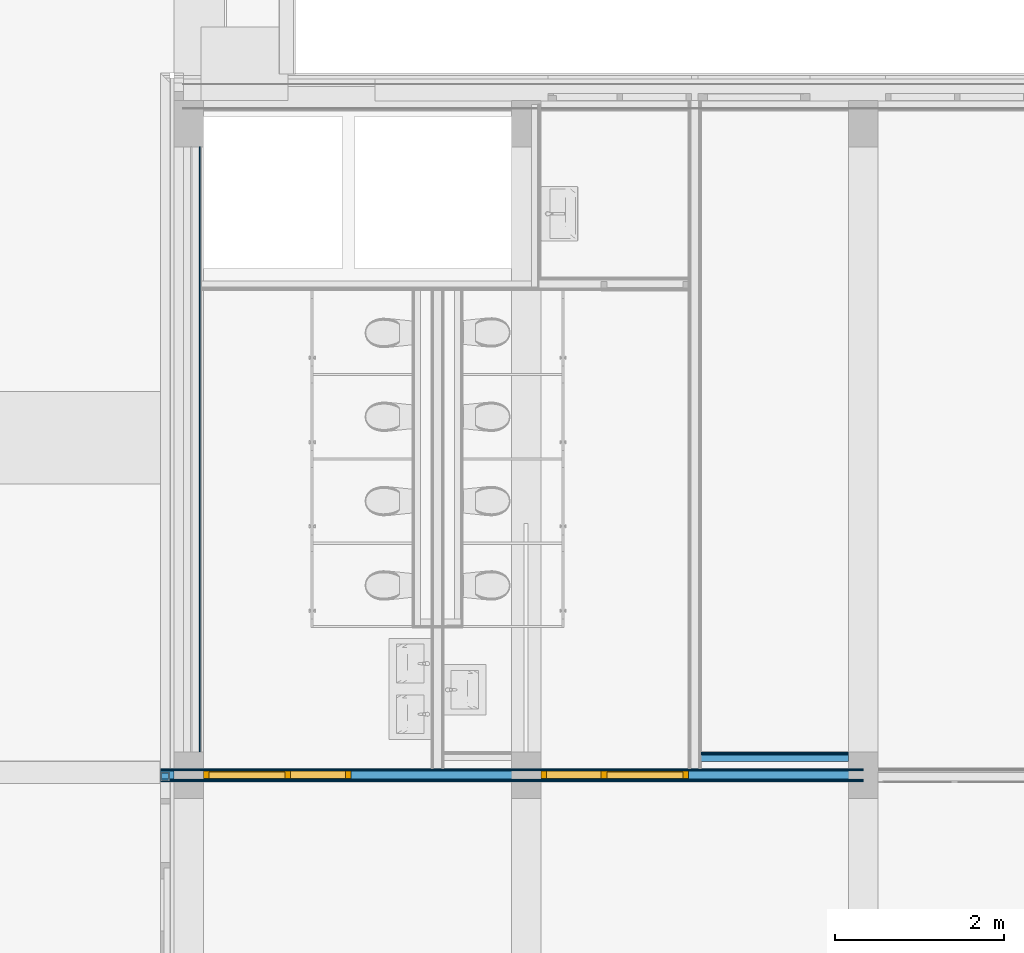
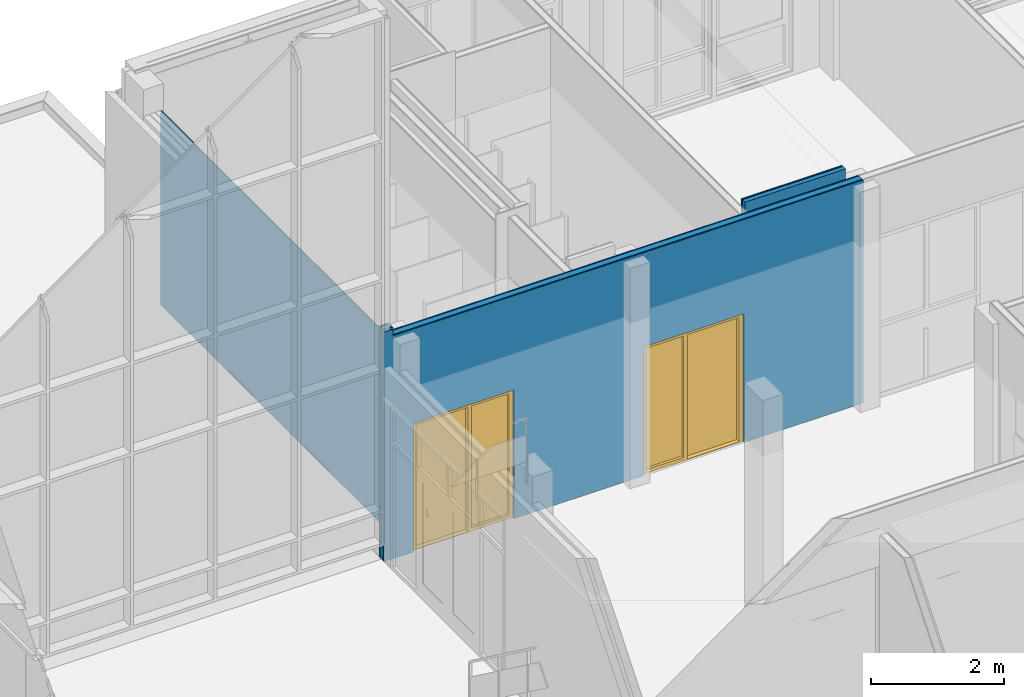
# One storey, part 51 of 94: 10 building element parts, 2 doors, 2 openings, 3 elements without a shape of their own.
"""IFC2X3 building model written with IfcOpenShell, lengths in millimetres."""

from ifc_helpers import new_model, entity, si_unit, converted_unit, derived_unit, money_unit, direction, frame, origin_with_axes, place, context, subcontext, project, spatial, open_shell, faceted_brep, surface_model, material, type_object, element, fill, aggregate, save


model = new_model("IFC2X3")

# Units and contexts
model_context = context("Model", 3, precision=0.01, world=origin_with_axes(), true_north=direction((0.0, 1.0)))
body_context = subcontext(model_context, "Body", "Model", "MODEL_VIEW")
ifc_project = project(units=[si_unit("LENGTHUNIT", "METRE", prefix="MILLI"), si_unit("AREAUNIT", "SQUARE_METRE"), si_unit("VOLUMEUNIT", "CUBIC_METRE"), converted_unit("PLANEANGLEUNIT", "DEGREE", entity("IfcPlaneAngleMeasure", 0.0174532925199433), si_unit("PLANEANGLEUNIT", "RADIAN"), dimensions=[0, 0, 0, 0, 0, 0, 0]), money_unit("EUR"), converted_unit("TIMEUNIT", "Year", entity("IfcTimeMeasure", 31557600.0), si_unit("TIMEUNIT", "SECOND"), dimensions=[0, 0, 1, 0, 0, 0, 0]), si_unit("MASSUNIT", "GRAM", prefix="KILO"), si_unit("THERMODYNAMICTEMPERATUREUNIT", "DEGREE_CELSIUS"), si_unit("LUMINOUSINTENSITYUNIT", "LUMEN"), si_unit("ENERGYUNIT", "JOULE", prefix="MEGA"), derived_unit("THERMALCONDUCTANCEUNIT", [(si_unit("POWERUNIT", "WATT"), 1), (si_unit("LENGTHUNIT", "METRE"), -1), (si_unit("THERMODYNAMICTEMPERATUREUNIT", "KELVIN"), -1)]), derived_unit("SPECIFICHEATCAPACITYUNIT", [(si_unit("ENERGYUNIT", "JOULE"), 1), (si_unit("MASSUNIT", "GRAM", prefix="KILO"), -1), (si_unit("THERMODYNAMICTEMPERATUREUNIT", "KELVIN"), -1)]), derived_unit("MASSDENSITYUNIT", [(si_unit("MASSUNIT", "GRAM", prefix="KILO"), 1), (si_unit("VOLUMEUNIT", "CUBIC_METRE"), -1)])], contexts=[model_context])

# Site, building, storey
site_placement = place(None, origin_with_axes())
site = spatial("IfcSite", under=ifc_project, at=site_placement, Name="<site naam>", CompositionType="ELEMENT")
building_placement = place(site_placement, origin_with_axes())
building = spatial("IfcBuilding", under=site, at=building_placement, Name="<Naam gebouw>", CompositionType="ELEMENT")
storey_placement = place(building_placement, frame((0.0, 0.0, 4250.0), z_axis=(0.0, 0.0, 1.0), x_axis=(1.0, 0.0, 0.0)))
storey = spatial("IfcBuildingStorey", under=building, at=storey_placement, Name="01 1e verdieping", CompositionType="ELEMENT", Elevation=4250.0)

# Door
door_style_1 = type_object("IfcDoorStyle", Name="D1 zl1-b 27", ConstructionType="NOTDEFINED", OperationType="SINGLE_SWING_RIGHT", ParameterTakesPrecedence=False, Sizeable=False)
wall_1_placement = place(storey_placement, frame((11665.44658083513, 12000.00000000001, 0.0), z_axis=(0.0, 0.0, 1.0), x_axis=(1.0, 0.0, 0.0)))
opening_1_placement = place(wall_1_placement, frame((5384.495417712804, 0.0, 0.0), z_axis=(0.0, 0.0, 1.0), x_axis=(1.0, 0.0, 0.0)))
door_1_placement = place(opening_1_placement, frame((-875.0, 0.0, 0.0), z_axis=(0.0, 0.0, 1.0), x_axis=(1.0, 0.0, 0.0)))
door_1 = element("IfcDoor", 1, at=door_1_placement, inside=storey, type_object=door_style_1, Name="22_BI-C-01 sp_305", ObjectType="DOOR", OverallHeight=2367.0, OverallWidth=1750.0, context=body_context, shape_type="SurfaceModel", body=[
    faceted_brep([(766.0000000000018, 35.00000000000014, 12.00000000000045), (783.0000000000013, 35.00000000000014, 12.00000000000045), (783.0000000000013, -39.00000000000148, 12.00000000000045), (1683.0, -39.00000000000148, 11.99999999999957), (1683.0, 35.00000000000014, 11.99999999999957), (1699.999999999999, 35.00000000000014, 11.99999999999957), (1699.999999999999, 74.99999999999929, 11.99999999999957), (766.0000000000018, 74.99999999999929, 12.00000000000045), (766.0000000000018, 35.00000000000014, 0.0), (783.0000000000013, 35.00000000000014, 0.0), (783.0000000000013, -39.00000000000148, 0.0), (1683.0, -39.00000000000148, 0.0), (1683.0, 35.00000000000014, 0.0), (1699.999999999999, 35.00000000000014, 0.0), (1699.999999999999, 74.99999999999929, 0.0), (766.0000000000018, 74.99999999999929, 0.0)], [[[0, 1, 2, 3, 4, 5, 6, 7]], [[1, 0, 8, 9]], [[10, 2, 1, 9]], [[2, 10, 11, 3]], [[3, 11, 12, 4]], [[5, 4, 12, 13]], [[13, 14, 6, 5]], [[15, 7, 6, 14]], [[8, 0, 7, 15]], [[9, 8, 15, 14, 13, 12, 11, 10]]]),
    faceted_brep([(0.0, 74.99999999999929, 0.0), (67.00000000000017, 74.99999999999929, 0.0), (67.00000000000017, -39.00000000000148, 0.0), (0.0, -39.00000000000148, 0.0), (0.0, 74.99999999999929, 2300.0), (67.00000000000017, 74.99999999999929, 2300.0), (67.00000000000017, 74.99999999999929, 67.00000000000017), (67.00000000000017, -39.00000000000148, 67.00000000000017), (67.00000000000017, -38.9999999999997, 2300.0), (0.0, -38.9999999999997, 2300.0)], [[[0, 1, 2, 3]], [[0, 4, 5, 6, 1]], [[1, 6, 7, 2]], [[3, 2, 7, 8, 9]], [[4, 0, 3, 9]], [[5, 4, 9, 8]], [[6, 5, 8, 7]]]),
    faceted_brep([(783.0000000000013, 35.00000000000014, 0.0), (783.0000000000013, 35.00000000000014, 2300.0), (783.0000000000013, -38.9999999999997, 2300.0), (783.0000000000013, -39.00000000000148, 0.0), (766.0000000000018, 35.00000000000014, 2300.0), (766.0000000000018, 35.00000000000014, 0.0), (766.0000000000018, 74.99999999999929, 2300.0), (716.0000000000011, 74.99999999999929, 2300.0), (716.0000000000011, -38.9999999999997, 2300.0), (716.0000000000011, -39.00000000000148, 0.0), (716.0000000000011, -39.00000000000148, 67.00000000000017), (716.0000000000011, 74.99999999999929, 0.0), (766.0000000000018, 74.99999999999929, 0.0), (716.0000000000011, 74.99999999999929, 67.00000000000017)], [[[0, 1, 2, 3]], [[4, 1, 0, 5]], [[4, 6, 7, 8, 2, 1]], [[9, 3, 2, 8, 10]], [[5, 0, 3, 9, 11, 12]], [[6, 4, 5, 12]], [[6, 12, 11, 13, 7]], [[13, 10, 8, 7]], [[11, 9, 10, 13]]]),
    faceted_brep([(67.00000000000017, 74.99999999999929, 67.00000000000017), (67.00000000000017, 74.99999999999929, 0.0), (67.00000000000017, -39.00000000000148, 0.0), (67.00000000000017, -39.00000000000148, 67.00000000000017), (716.0000000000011, 74.99999999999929, 67.00000000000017), (716.0000000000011, 74.99999999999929, 0.0), (716.0000000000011, -39.00000000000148, 0.0), (716.0000000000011, -39.00000000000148, 67.00000000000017)], [[[0, 1, 2, 3]], [[0, 4, 5, 1]], [[1, 5, 6, 2]], [[3, 2, 6, 7]], [[4, 0, 3, 7]], [[5, 4, 7, 6]]]),
    faceted_brep([(1699.999999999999, 35.00000000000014, 2300.0), (1683.0, 35.00000000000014, 2300.0), (1683.0, -38.9999999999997, 2300.0), (1750.0, -38.9999999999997, 2300.0), (1750.0, 74.99999999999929, 2300.0), (1699.999999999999, 74.99999999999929, 2300.0), (1699.999999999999, 35.00000000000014, 0.0), (1683.0, 35.00000000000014, 0.0), (1683.0, -39.00000000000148, 0.0), (1750.0, -39.00000000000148, 0.0), (1750.0, 74.99999999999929, 0.0), (1699.999999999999, 74.99999999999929, 0.0)], [[[0, 1, 2, 3, 4, 5]], [[1, 0, 6, 7]], [[1, 7, 8, 2]], [[3, 2, 8, 9]], [[4, 3, 9, 10]], [[11, 5, 4, 10]], [[0, 5, 11, 6]], [[6, 11, 10, 9, 8, 7]]]),
    faceted_brep([(766.0000000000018, 74.99999999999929, 2317.0), (766.0000000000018, 74.99999999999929, 2300.0), (716.0000000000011, 74.99999999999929, 2300.0), (67.00000000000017, 74.99999999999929, 2300.0), (0.0, 74.99999999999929, 2300.0), (0.0, 74.99999999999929, 2367.0), (1750.0, 74.99999999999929, 2367.0), (1750.0, 74.99999999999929, 2300.0), (1699.999999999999, 74.99999999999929, 2300.0), (1699.999999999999, 74.99999999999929, 2317.0), (766.0000000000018, 35.00000000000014, 2317.0), (766.0000000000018, 35.00000000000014, 2300.0), (1683.0, 35.00000000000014, 2300.0), (1683.0, -38.9999999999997, 2300.0), (783.0000000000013, -38.9999999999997, 2300.0), (716.0000000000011, -38.9999999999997, 2300.0), (67.00000000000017, -38.9999999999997, 2300.0), (0.0, -38.9999999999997, 2300.0), (0.0, -38.9999999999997, 2367.0), (1750.0, -38.9999999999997, 2367.0), (1750.0, -38.9999999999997, 2300.0), (1699.999999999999, 35.00000000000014, 2300.0), (1699.999999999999, 35.00000000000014, 2317.0)], [[[0, 1, 2, 3, 4, 5, 6, 7, 8, 9]], [[1, 0, 10, 11]], [[11, 12, 13, 14, 15, 2, 1]], [[2, 15, 16, 3]], [[3, 16, 17, 4]], [[4, 17, 18, 5]], [[5, 18, 19, 6]], [[6, 19, 20, 7]], [[21, 8, 7, 20, 13, 12]], [[9, 8, 21, 22]], [[0, 9, 22, 10]], [[21, 12, 11, 10, 22]], [[13, 20, 19, 18, 17, 16, 15, 14]]]),
    faceted_brep([(1699.999999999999, 74.99999999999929, 11.99999999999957), (1699.999999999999, 35.00000000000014, 11.99999999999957), (766.0000000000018, 35.00000000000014, 11.99999999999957), (766.0000000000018, 74.99999999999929, 11.99999999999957), (1699.999999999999, 74.99999999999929, 2317.0), (1699.999999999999, 35.00000000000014, 2317.0), (766.0000000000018, 35.00000000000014, 2317.0), (766.0000000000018, 74.99999999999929, 2317.0)], [[[0, 1, 2, 3]], [[4, 5, 1, 0]], [[1, 5, 6, 2]], [[3, 2, 6, 7]], [[0, 3, 7, 4]], [[7, 6, 5, 4]]]),
    surface_model("IfcShellBasedSurfaceModel", [(67.00000000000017, 20.99999999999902, 67.00000000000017), (67.00000000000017, 20.99999999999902, 2300.000000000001), (716.0000000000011, 20.99999999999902, 2300.000000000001), (716.0000000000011, 20.99999999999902, 67.00000000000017)], [open_shell([[[0, 1, 2, 3]]])]),
    surface_model("IfcShellBasedSurfaceModel", [(67.00000000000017, 8.999999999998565, 67.00000000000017), (716.0000000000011, 8.999999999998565, 67.00000000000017), (716.0000000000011, 8.999999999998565, 2300.000000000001), (67.00000000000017, 8.999999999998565, 2300.000000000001)], [open_shell([[[0, 1, 2, 3]]])]),
])

door_style_2 = type_object("IfcDoorStyle", Name="D1 zl1-b 27", ConstructionType="NOTDEFINED", OperationType="SINGLE_SWING_LEFT", ParameterTakesPrecedence=False, Sizeable=False)
opening_2_placement = place(wall_1_placement, frame((1384.474906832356, 0.0, 0.0), z_axis=(0.0, 0.0, 1.0), x_axis=(1.0, 0.0, 0.0)))
door_2_placement = place(opening_2_placement, frame((-875.0, 0.0, 0.0), z_axis=(0.0, 0.0, 1.0), x_axis=(1.0, 0.0, 0.0)))
door_2 = element("IfcDoor", 2, at=door_2_placement, inside=storey, type_object=door_style_2, Name="22_BI-C-01_305", ObjectType="DOOR", OverallHeight=2367.0, OverallWidth=1750.0, context=body_context, shape_type="SurfaceModel", body=[
    faceted_brep([(984.0, 35.00000000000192, 12.00000000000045), (984.0, 75.00000000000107, 12.00000000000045), (50.00000000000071, 75.00000000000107, 11.99999999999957), (50.00000000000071, 35.00000000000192, 11.99999999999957), (67.00000000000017, 35.00000000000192, 11.99999999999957), (67.00000000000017, -38.9999999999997, 11.99999999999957), (967.0000000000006, -38.9999999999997, 12.00000000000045), (967.0000000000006, 35.00000000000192, 12.00000000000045), (984.0, 35.00000000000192, 0.0), (984.0, 75.00000000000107, 0.0), (50.00000000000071, 75.00000000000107, 0.0), (50.00000000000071, 35.00000000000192, 0.0), (67.00000000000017, 35.00000000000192, 0.0), (67.00000000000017, -38.9999999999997, 0.0), (967.0000000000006, -38.9999999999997, 0.0), (967.0000000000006, 35.00000000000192, 0.0)], [[[0, 1, 2, 3, 4, 5, 6, 7]], [[8, 9, 1, 0]], [[9, 10, 2, 1]], [[11, 3, 2, 10]], [[3, 11, 12, 4]], [[5, 4, 12, 13]], [[6, 5, 13, 14]], [[14, 15, 7, 6]], [[7, 15, 8, 0]], [[15, 14, 13, 12, 11, 10, 9, 8]]]),
    faceted_brep([(1750.0, 75.00000000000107, 0.0), (1750.0, -38.9999999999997, 0.0), (1683.0, -38.9999999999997, 0.0), (1683.0, 75.00000000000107, 0.0), (1750.0, 75.00000000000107, 2300.0), (1750.0, -38.99999999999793, 2300.0), (1683.0, -38.99999999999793, 2300.0), (1683.0, -38.9999999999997, 67.00000000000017), (1683.0, 75.00000000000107, 67.00000000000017), (1683.0, 75.00000000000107, 2300.0)], [[[0, 1, 2, 3]], [[4, 5, 1, 0]], [[1, 5, 6, 7, 2]], [[3, 2, 7, 8]], [[0, 3, 8, 9, 4]], [[9, 6, 5, 4]], [[8, 7, 6, 9]]]),
    faceted_brep([(967.0000000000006, 35.00000000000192, 0.0), (967.0000000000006, -38.9999999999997, 0.0), (967.0000000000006, -38.99999999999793, 2300.0), (967.0000000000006, 35.00000000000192, 2300.0), (984.0, 35.00000000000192, 0.0), (984.0, 75.00000000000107, 0.0), (1034.000000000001, 75.00000000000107, 0.0), (1034.000000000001, -38.9999999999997, 0.0), (1034.000000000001, -38.9999999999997, 67.00000000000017), (1034.000000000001, -38.99999999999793, 2300.0), (984.0, 35.00000000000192, 2300.0), (1034.000000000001, 75.00000000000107, 2300.0), (984.0, 75.00000000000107, 2300.0), (1034.000000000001, 75.00000000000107, 67.00000000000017)], [[[0, 1, 2, 3]], [[4, 5, 6, 7, 1, 0]], [[7, 8, 9, 2, 1]], [[10, 3, 2, 9, 11, 12]], [[10, 4, 0, 3]], [[12, 5, 4, 10]], [[12, 11, 13, 6, 5]], [[6, 13, 8, 7]], [[13, 11, 9, 8]]]),
    faceted_brep([(1683.0, 75.00000000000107, 67.00000000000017), (1683.0, -38.9999999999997, 67.00000000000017), (1683.0, -38.9999999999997, 0.0), (1683.0, 75.00000000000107, 0.0), (1034.000000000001, 75.00000000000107, 67.00000000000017), (1034.000000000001, -38.9999999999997, 67.00000000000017), (1034.000000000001, -38.9999999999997, 0.0), (1034.000000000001, 75.00000000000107, 0.0)], [[[0, 1, 2, 3]], [[4, 5, 1, 0]], [[1, 5, 6, 2]], [[3, 2, 6, 7]], [[0, 3, 7, 4]], [[7, 6, 5, 4]]]),
    faceted_brep([(50.00000000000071, 35.00000000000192, 2300.0), (50.00000000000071, 75.00000000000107, 2300.0), (0.0, 75.00000000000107, 2300.0), (0.0, -38.99999999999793, 2300.0), (67.00000000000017, -38.99999999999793, 2300.0), (67.00000000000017, 35.00000000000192, 2300.0), (50.00000000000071, 35.00000000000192, 0.0), (50.00000000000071, 75.00000000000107, 0.0), (0.0, 75.00000000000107, 0.0), (0.0, -38.9999999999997, 0.0), (67.00000000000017, -38.9999999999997, 0.0), (67.00000000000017, 35.00000000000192, 0.0)], [[[0, 1, 2, 3, 4, 5]], [[0, 6, 7, 1]], [[7, 8, 2, 1]], [[2, 8, 9, 3]], [[3, 9, 10, 4]], [[5, 4, 10, 11]], [[5, 11, 6, 0]], [[6, 11, 10, 9, 8, 7]]]),
    faceted_brep([(984.0, 75.00000000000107, 2317.0), (50.00000000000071, 75.00000000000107, 2317.0), (50.00000000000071, 75.00000000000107, 2300.0), (0.0, 75.00000000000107, 2300.0), (0.0, 75.00000000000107, 2367.0), (1750.0, 75.00000000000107, 2367.0), (1750.0, 75.00000000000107, 2300.0), (1683.0, 75.00000000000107, 2300.0), (1034.000000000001, 75.00000000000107, 2300.0), (984.0, 75.00000000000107, 2300.0), (984.0, 35.00000000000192, 2317.0), (50.00000000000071, 35.00000000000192, 2317.0), (50.00000000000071, 35.00000000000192, 2300.0), (67.00000000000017, 35.00000000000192, 2300.0), (67.00000000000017, -38.99999999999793, 2300.0), (0.0, -38.99999999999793, 2300.0), (0.0, -38.99999999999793, 2367.0), (1750.0, -38.99999999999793, 2367.0), (1750.0, -38.99999999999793, 2300.0), (1683.0, -38.99999999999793, 2300.0), (1034.000000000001, -38.99999999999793, 2300.0), (984.0, 35.00000000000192, 2300.0), (967.0000000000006, -38.99999999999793, 2300.0)], [[[0, 1, 2, 3, 4, 5, 6, 7, 8, 9]], [[0, 10, 11, 1]], [[1, 11, 12, 2]], [[12, 13, 14, 15, 3, 2]], [[4, 3, 15, 16]], [[5, 4, 16, 17]], [[6, 5, 17, 18]], [[7, 6, 18, 19]], [[8, 7, 19, 20]], [[21, 9, 8, 20, 22, 14, 13]], [[9, 21, 10, 0]], [[12, 11, 10, 21, 13]], [[14, 22, 20, 19, 18, 17, 16, 15]]]),
    faceted_brep([(50.00000000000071, 75.00000000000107, 11.99999999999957), (984.0, 75.00000000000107, 11.99999999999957), (984.0, 35.00000000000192, 11.99999999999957), (50.00000000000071, 35.00000000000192, 11.99999999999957), (50.00000000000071, 75.00000000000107, 2317.0), (984.0, 75.00000000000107, 2317.0), (984.0, 35.00000000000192, 2317.0), (50.00000000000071, 35.00000000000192, 2317.0)], [[[0, 1, 2, 3]], [[0, 4, 5, 1]], [[1, 5, 6, 2]], [[3, 2, 6, 7]], [[4, 0, 3, 7]], [[5, 4, 7, 6]]]),
    surface_model("IfcShellBasedSurfaceModel", [(1683.0, 21.0000000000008, 67.00000000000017), (1034.000000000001, 21.0000000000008, 67.00000000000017), (1034.000000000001, 21.0000000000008, 2300.000000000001), (1683.0, 21.0000000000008, 2300.000000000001)], [open_shell([[[0, 1, 2, 3]]])]),
    surface_model("IfcShellBasedSurfaceModel", [(1683.0, 9.000000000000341, 67.00000000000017), (1683.0, 9.000000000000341, 2300.000000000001), (1034.000000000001, 9.000000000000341, 2300.000000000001), (1034.000000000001, 9.000000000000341, 67.00000000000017)], [open_shell([[[0, 1, 2, 3]]])]),
])

# Wall, opening
wall_type_1 = type_object("IfcWallType", Name="MS-01 GF 150 ECO DGS/2.100.2.A 150", PredefinedType="NOTDEFINED")
wall_1 = element("IfcWall", 3, at=wall_1_placement, inside=storey, type_object=wall_type_1, Name="22_Binnenwand_MS-01")
opening_1 = element("IfcOpeningElement", 4, at=opening_1_placement, cuts=wall_1, Name="22_BI-C-01 sp_305", context=body_context, shape_type="Brep", body=[
    faceted_brep([(-875.0, -76.00000000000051, 2367.0), (-875.0, -76.00000000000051, 0.0), (875.0, -76.00000000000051, 0.0), (875.0, -76.00000000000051, 2367.0), (-875.0, 76.00000000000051, 2367.0), (-875.0, 76.00000000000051, 0.0), (875.0, 76.00000000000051, 0.0), (875.0, 76.00000000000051, 2367.0)], [[[0, 1, 2, 3]], [[4, 5, 1, 0]], [[5, 6, 2, 1]], [[6, 7, 3, 2]], [[7, 4, 0, 3]], [[6, 5, 4, 7]]]),
])

fill(opening_1, door_1)

# Opening
opening_2 = element("IfcOpeningElement", 5, at=opening_2_placement, cuts=wall_1, Name="22_BI-C-01_305", context=body_context, shape_type="Brep", body=[
    faceted_brep([(-875.0, -75.99999999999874, 2367.0), (-875.0, -75.99999999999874, 0.0), (875.0, -75.99999999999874, 0.0), (875.0, -75.99999999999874, 2367.0), (-875.0, 76.00000000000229, 2367.0), (-875.0, 76.00000000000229, 0.0), (875.0, 76.00000000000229, 0.0), (875.0, 76.00000000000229, 2367.0)], [[[0, 1, 2, 3]], [[4, 5, 1, 0]], [[5, 6, 2, 1]], [[6, 7, 3, 2]], [[7, 4, 0, 3]], [[6, 5, 4, 7]]]),
])

fill(opening_2, door_2)

# Building element part
ifc_material_1 = material(Name="gipsplaat")
building_element_part_1_placement = place(wall_1_placement, origin_with_axes())
building_element_part_1 = element("IfcBuildingElementPart", 6, at=building_element_part_1_placement, material=ifc_material_1, Name="gipsplaat", context=body_context, shape_type="Brep", body=[
    faceted_brep([(159.5534191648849, 75.00000000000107, 4250.0), (159.5534191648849, 74.99999999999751, 4100.0), (8334.553419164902, 74.99999999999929, 4100.0), (8334.553419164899, 74.99999999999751, 0.0), (0.0, 74.99999999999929, 0.0), (0.0, 75.00000000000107, 4250.0), (6409.491822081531, 74.99999999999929, 22.99999999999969), (6409.491822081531, 74.99999999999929, 19.99999999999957), (8159.553435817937, 74.99999999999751, 19.99999999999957), (8159.553435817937, 74.99999999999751, 22.99999999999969), (159.5534191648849, 62.5, 4250.0), (159.5534191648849, 62.5, 4100.0), (8334.553419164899, 62.49999999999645, 4100.0), (8334.553419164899, 62.49999999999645, 0.0), (0.0, 62.5, 0.0), (0.0, 62.5, 4250.0), (6409.491822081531, 74.89663354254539, 19.99999999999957), (6409.491822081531, 74.89663354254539, 22.99999999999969), (8159.553435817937, 74.89663354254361, 19.99999999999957), (8159.553435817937, 74.89663354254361, 22.99999999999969)], [[[0, 1, 2, 3, 4, 5], [6, 7, 8, 9]], [[1, 0, 10, 11]], [[12, 2, 1, 11]], [[2, 12, 13, 3]], [[14, 4, 3, 13]], [[15, 5, 4, 14]], [[10, 0, 5, 15]], [[16, 7, 6, 17]], [[18, 8, 7, 16]], [[19, 9, 8, 18]], [[17, 6, 9, 19]], [[11, 10, 15, 14, 13, 12]], [[18, 16, 17, 19]]]),
])

building_element_part_2_placement = place(wall_1_placement, origin_with_axes())
building_element_part_2 = element("IfcBuildingElementPart", 7, at=building_element_part_2_placement, material=ifc_material_1, Name="gipsplaat", context=body_context, shape_type="Brep", body=[
    faceted_brep([(159.5534191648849, 62.5, 4250.0), (159.5534191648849, 62.5, 4100.0), (8334.553419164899, 62.49999999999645, 4100.0), (8334.553419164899, 62.49999999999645, 0.0), (0.0, 62.5, 0.0), (0.0, 62.5, 4250.0), (159.5534191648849, 50.00000000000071, 4250.0), (159.5534191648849, 49.99999999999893, 4100.0), (8334.553419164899, 49.99999999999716, 4100.0), (8334.553419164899, 49.99999999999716, 0.0), (0.0, 50.00000000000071, 0.0), (0.0, 50.00000000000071, 4250.0)], [[[0, 1, 2, 3, 4, 5]], [[1, 0, 6, 7]], [[8, 2, 1, 7]], [[2, 8, 9, 3]], [[10, 4, 3, 9]], [[11, 5, 4, 10]], [[6, 0, 5, 11]], [[7, 6, 11, 10, 9, 8]]]),
])

ifc_material_2 = material(Name="isolatie_steenwol LSW")
building_element_part_3_placement = place(wall_1_placement, origin_with_axes())
building_element_part_3 = element("IfcBuildingElementPart", 8, at=building_element_part_3_placement, material=ifc_material_2, Name="isolatie_steenwol LSW", context=body_context, shape_type="Brep", body=[
    faceted_brep([(159.5534191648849, 50.00000000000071, 4250.0), (159.5534191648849, 50.00000000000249, 4100.0), (8334.553419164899, 49.99999999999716, 4100.0), (8334.553419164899, 49.99999999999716, 0.0), (0.0, 50.00000000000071, 0.0), (0.0, 50.00000000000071, 4250.0), (159.5534191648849, -49.99999999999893, 4250.0), (159.5534191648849, -49.99999999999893, 4100.0), (8334.553419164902, -50.00000000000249, 4100.0), (8334.553419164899, -50.00000000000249, 0.0), (104.5534191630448, 31.00302324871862, 0.0), (4.553419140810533, 31.00302324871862, 0.0), (4.553419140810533, -50.00000000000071, 0.0), (0.0, -50.00000000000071, 0.0), (104.5534191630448, -50.00000000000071, 0.0), (0.0, -49.99999999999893, 4250.0), (4.553419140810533, -49.99999999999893, 4250.0), (4.553419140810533, 31.00302324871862, 4250.0), (104.5534191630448, 31.00302324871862, 4250.0), (104.5534191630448, -49.99999999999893, 4250.0)], [[[0, 1, 2, 3, 4, 5]], [[1, 0, 6, 7]], [[8, 2, 1, 7]], [[2, 8, 9, 3]], [[10, 11, 12, 13, 4, 3, 9, 14]], [[13, 15, 5, 4]], [[6, 0, 5, 15, 16, 17, 18, 19]], [[7, 6, 19, 14, 9, 8]], [[10, 18, 17, 11]], [[11, 17, 16, 12]], [[13, 12, 16, 15]], [[14, 19, 18, 10]]]),
    faceted_brep([(12.55341921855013, 23.00302317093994, 4250.0), (12.55341921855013, -49.99999999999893, 4250.0), (96.55341908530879, -49.99999999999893, 4250.0), (96.55341908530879, 23.00302317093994, 4250.0), (12.55341921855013, 23.00302317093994, 0.0), (12.55341921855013, -50.00000000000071, 0.0), (96.55341908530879, -50.00000000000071, 0.0), (96.55341908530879, 23.00302317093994, 0.0)], [[[0, 1, 2, 3]], [[1, 0, 4, 5]], [[6, 2, 1, 5]], [[3, 2, 6, 7]], [[0, 3, 7, 4]], [[7, 6, 5, 4]]]),
])

building_element_part_4_placement = place(wall_1_placement, origin_with_axes())
building_element_part_4 = element("IfcBuildingElementPart", 9, at=building_element_part_4_placement, material=ifc_material_1, Name="gipsplaat", context=body_context, shape_type="Brep", body=[
    faceted_brep([(159.5534191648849, -62.5, 4250.0), (159.5534191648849, -62.5, 4100.0), (8334.553419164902, -62.50000000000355, 4100.0), (8334.553419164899, -62.50000000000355, 0.0), (104.5534191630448, -62.5, 0.0), (104.5534191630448, -62.5, 4250.0), (159.5534191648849, -63.62245916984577, 4250.0), (159.5534191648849, -63.62245916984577, 4220.000000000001), (159.5534191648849, -74.99999999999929, 4220.000000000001), (159.5534191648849, -75.00000000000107, 4100.0), (8334.553419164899, -75.00000000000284, 4100.0), (8334.553419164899, -75.00000000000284, 0.0), (4.553419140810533, -69.00041967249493, 0.0), (104.5534191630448, -69.00041967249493, 0.0), (0.0, -74.99999999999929, 0.0), (0.0, -62.5, 0.0), (4.553419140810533, -62.5, 0.0), (104.5534191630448, -63.62245916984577, 4220.000000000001), (104.5534191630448, -63.62245916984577, 4250.0), (104.5534191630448, -69.00041967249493, 4220.000000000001), (4.553419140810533, -69.00041967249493, 4220.000000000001), (4.553419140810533, -63.62245916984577, 4220.000000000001), (0.0, -63.62245916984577, 4220.000000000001), (0.0, -74.99999999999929, 4220.000000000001), (0.0, -63.62245916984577, 4250.0), (0.0, -62.5, 4250.0), (4.553419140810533, -62.5, 4250.0), (4.553419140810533, -63.62245916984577, 4250.0)], [[[0, 1, 2, 3, 4, 5]], [[1, 0, 6, 7, 8, 9]], [[10, 2, 1, 9]], [[2, 10, 11, 3]], [[12, 13, 4, 3, 11, 14, 15, 16]], [[17, 18, 5, 4, 13, 19]], [[6, 0, 5, 18]], [[7, 6, 18, 17]], [[8, 7, 17, 19, 20, 21, 22, 23]], [[9, 8, 23, 14, 11, 10]], [[12, 20, 19, 13]], [[14, 23, 22, 24, 25, 15]], [[25, 26, 16, 15]], [[12, 16, 26, 27, 21, 20]], [[22, 21, 27, 24]], [[24, 27, 26, 25]]]),
])

building_element_part_5_placement = place(wall_1_placement, origin_with_axes())
building_element_part_5 = element("IfcBuildingElementPart", 10, at=building_element_part_5_placement, material=ifc_material_1, Name="gipsplaat", context=body_context, shape_type="Brep", body=[
    faceted_brep([(159.5534191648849, -49.99999999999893, 4250.0), (159.5534191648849, -50.00000000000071, 4100.0), (8334.553419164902, -50.00000000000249, 4100.0), (8334.553419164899, -50.00000000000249, 0.0), (104.5534191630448, -50.00000000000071, 0.0), (104.5534191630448, -49.99999999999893, 4250.0), (159.5534191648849, -62.5, 4250.0), (159.5534191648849, -62.5, 4100.0), (8334.553419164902, -62.50000000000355, 4100.0), (8334.553419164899, -62.50000000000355, 0.0), (104.5534191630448, -62.5, 0.0), (104.5534191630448, -62.5, 4250.0)], [[[0, 1, 2, 3, 4, 5]], [[1, 0, 6, 7]], [[8, 2, 1, 7]], [[2, 8, 9, 3]], [[9, 10, 4, 3]], [[10, 11, 5, 4]], [[6, 0, 5, 11]], [[7, 6, 11, 10, 9, 8]]]),
    faceted_brep([(4.553419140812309, -62.5, 4250.0), (4.553419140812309, -49.99999999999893, 4250.0), (0.0, -49.99999999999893, 4250.0), (0.0, -62.5, 4250.0), (4.553419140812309, -50.00000000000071, 0.0), (4.553419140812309, -62.5, 0.0), (0.0, -50.00000000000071, 0.0), (0.0, -62.5, 0.0)], [[[0, 1, 2, 3]], [[4, 1, 0, 5]], [[1, 4, 6, 2]], [[3, 2, 6, 7]], [[5, 0, 3, 7]], [[4, 5, 7, 6]]]),
    faceted_brep([(12.55341921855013, -61.00041959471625, 4250.0), (96.55341908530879, -61.00041959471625, 4250.0), (96.55341908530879, -49.99999999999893, 4250.0), (12.55341921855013, -49.99999999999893, 4250.0), (12.55341921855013, -61.00041959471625, 0.0), (96.55341908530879, -61.00041959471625, 0.0), (96.55341908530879, -50.00000000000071, 0.0), (12.55341921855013, -50.00000000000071, 0.0)], [[[0, 1, 2, 3]], [[1, 0, 4, 5]], [[6, 2, 1, 5]], [[7, 3, 2, 6]], [[0, 3, 7, 4]], [[4, 7, 6, 5]]]),
])

aggregate(wall_1, [building_element_part_1, building_element_part_2, building_element_part_3, building_element_part_4, building_element_part_5])

# Wall, building element parts
wall_type_2 = type_object("IfcWallType", Name="MS-04 GF 138 V/100.3.A 113", PredefinedType="NOTDEFINED")
wall_2_placement = place(storey_placement, frame((18074.93840291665, 12275.00000000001, 0.0), z_axis=(0.0, 0.0, 1.0), x_axis=(1.0, 0.0, 0.0)))
wall_2 = element("IfcWall", 11, at=wall_2_placement, inside=storey, type_object=wall_type_2, Name="22_Binnenwand_MS-04")
building_element_part_6_placement = place(wall_2_placement, origin_with_axes())
building_element_part_6 = element("IfcBuildingElementPart", 12, at=building_element_part_6_placement, material=ifc_material_1, Name="gipsplaat", context=body_context, shape_type="Brep", body=[
    faceted_brep([(0.0, -25.00000000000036, 19.99999999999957), (1750.06161373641, -25.00000000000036, 19.99999999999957), (1750.06159708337, -25.00000000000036, 0.0), (0.0, -25.00000000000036, 0.0), (1750.06161373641, -37.49999999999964, 19.99999999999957), (0.0, -37.49999999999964, 19.99999999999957), (1750.06159708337, -37.49999999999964, 0.0), (0.0, -37.49999999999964, 0.0)], [[[0, 1, 2, 3]], [[4, 1, 0, 5]], [[1, 4, 6, 2]], [[3, 2, 6, 7]], [[5, 0, 3, 7]], [[4, 5, 7, 6]]]),
    faceted_brep([(0.0, -25.00000000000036, 4220.000000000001), (1750.061597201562, -25.00000000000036, 4220.000000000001), (1750.06161373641, -25.00000000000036, 22.99999999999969), (0.0, -25.00000000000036, 22.99999999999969), (1750.061597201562, -37.49999999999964, 4220.000000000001), (0.0, -37.49999999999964, 4220.000000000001), (1750.06161373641, -37.49999999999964, 22.99999999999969), (0.0, -37.49999999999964, 22.99999999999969)], [[[0, 1, 2, 3]], [[4, 1, 0, 5]], [[1, 4, 6, 2]], [[3, 2, 6, 7]], [[5, 0, 3, 7]], [[4, 5, 7, 6]]]),
])
building_element_part_7_placement = place(wall_2_placement, origin_with_axes())
building_element_part_7 = element("IfcBuildingElementPart", 13, at=building_element_part_7_placement, material=ifc_material_1, Name="gipsplaat", context=body_context, shape_type="Brep", body=[
    faceted_brep([(0.0, 0.0, 19.99999999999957), (1750.06161373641, 5.358470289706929e-05, 19.99999999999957), (1750.06159708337, 0.0, 0.0), (0.0, 0.0, 0.0), (1750.06161373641, -12.49999999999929, 19.99999999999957), (0.0, -12.49999999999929, 19.99999999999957), (1750.06159708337, -12.49999999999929, 0.0), (0.0, -12.49999999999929, 0.0)], [[[0, 1, 2, 3]], [[4, 1, 0, 5]], [[1, 4, 6, 2]], [[3, 2, 6, 7]], [[5, 0, 3, 7]], [[4, 5, 7, 6]]]),
    faceted_brep([(0.0, 0.0, 4220.000000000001), (1750.061597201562, 3.80302012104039e-07, 4220.000000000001), (1750.06161373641, 5.358470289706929e-05, 22.99999999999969), (0.0, 0.0, 22.99999999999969), (1750.061597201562, -12.49999999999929, 4220.000000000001), (0.0, -12.49999999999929, 4220.000000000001), (1750.06161373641, -12.49999999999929, 22.99999999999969), (0.0, -12.49999999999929, 22.99999999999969)], [[[0, 1, 2, 3]], [[4, 1, 0, 5]], [[1, 4, 6, 2]], [[3, 2, 6, 7]], [[5, 0, 3, 7]], [[4, 5, 7, 6]]]),
])
building_element_part_8_placement = place(wall_2_placement, origin_with_axes())
building_element_part_8 = element("IfcBuildingElementPart", 14, at=building_element_part_8_placement, material=ifc_material_2, Name="isolatie_steenwol LSW", context=body_context, shape_type="Brep", body=[
    faceted_brep([(0.0, -37.49999999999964, 19.99999999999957), (1750.06161373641, -37.49999999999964, 19.99999999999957), (1750.06159708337, -37.49999999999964, 0.0), (0.0, -37.49999999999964, 0.0), (1750.06161373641, -112.5000000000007, 19.99999999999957), (0.0, -112.5000000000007, 19.99999999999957), (1750.06159708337, -112.5000000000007, 0.0), (0.0, -112.5000000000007, 0.0)], [[[0, 1, 2, 3]], [[4, 1, 0, 5]], [[1, 4, 6, 2]], [[3, 2, 6, 7]], [[5, 0, 3, 7]], [[4, 5, 7, 6]]]),
    faceted_brep([(0.0, -37.49999999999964, 4220.000000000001), (1750.061597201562, -37.49999999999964, 4220.000000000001), (1750.06161373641, -37.49999999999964, 22.99999999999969), (0.0, -37.49999999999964, 22.99999999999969), (1750.061597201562, -112.4999999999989, 4220.000000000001), (0.0, -112.4999999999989, 4220.000000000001), (1750.06161373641, -112.5000000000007, 22.99999999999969), (0.0, -112.5000000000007, 22.99999999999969)], [[[0, 1, 2, 3]], [[4, 1, 0, 5]], [[1, 4, 6, 2]], [[3, 2, 6, 7]], [[5, 0, 3, 7]], [[4, 5, 7, 6]]]),
])
building_element_part_9_placement = place(wall_2_placement, origin_with_axes())
building_element_part_9 = element("IfcBuildingElementPart", 15, at=building_element_part_9_placement, material=ifc_material_1, Name="gipsplaat", context=body_context, shape_type="Brep", body=[
    faceted_brep([(0.0, -12.49999999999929, 19.99999999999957), (1750.06161373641, -12.49999999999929, 19.99999999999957), (1750.06159708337, -12.49999999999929, 0.0), (0.0, -12.49999999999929, 0.0), (1750.06161373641, -25.00000000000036, 19.99999999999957), (0.0, -25.00000000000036, 19.99999999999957), (1750.06159708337, -25.00000000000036, 0.0), (0.0, -25.00000000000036, 0.0)], [[[0, 1, 2, 3]], [[4, 1, 0, 5]], [[1, 4, 6, 2]], [[3, 2, 6, 7]], [[5, 0, 3, 7]], [[4, 5, 7, 6]]]),
    faceted_brep([(0.0, -12.49999999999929, 4220.000000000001), (1750.061597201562, -12.49999999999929, 4220.000000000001), (1750.06161373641, -12.49999999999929, 22.99999999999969), (0.0, -12.49999999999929, 22.99999999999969), (1750.061597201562, -25.00000000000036, 4220.000000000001), (0.0, -25.00000000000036, 4220.000000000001), (1750.06161373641, -25.00000000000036, 22.99999999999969), (0.0, -25.00000000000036, 22.99999999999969)], [[[0, 1, 2, 3]], [[4, 1, 0, 5]], [[1, 4, 6, 2]], [[3, 2, 6, 7]], [[5, 0, 3, 7]], [[4, 5, 7, 6]]]),
])
aggregate(wall_2, [building_element_part_6, building_element_part_7, building_element_part_8, building_element_part_9])

# Wall, building element part
wall_type_3 = type_object("IfcWallType", Name="therm. voorzetwand 215mm 215", PredefinedType="NOTDEFINED")
wall_3_placement = place(storey_placement, frame((11935.00000055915, 19449.99996516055, 0.0), z_axis=(0.0, 0.0, 1.0), x_axis=(0.0, -1.0, 0.0)))
wall_3 = element("IfcWall", 16, at=wall_3_placement, inside=storey, type_object=wall_type_3, Name="22_Binnenwand_therm.")
building_element_part_10_placement = place(wall_3_placement, origin_with_axes())
building_element_part_10 = element("IfcBuildingElementPart", 17, at=building_element_part_10_placement, material=ifc_material_1, Name="gipsplaat", context=body_context, shape_type="Brep", body=[
    faceted_brep([(-3.483944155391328e-05, 189.9999999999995, 3569.999999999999), (-3.483944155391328e-05, 202.5000000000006, 3569.999999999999), (0.0, 202.5000000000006, 0.0), (0.0, 189.9999999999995, 0.0), (7175.000011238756, 202.5000000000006, 3569.999999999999), (7175.000011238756, 190.0000000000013, 3569.999999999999), (7174.999896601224, 202.5000000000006, 22.99999999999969), (1699.999962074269, 202.5000000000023, 22.99999999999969), (1699.999962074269, 202.5000000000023, 19.99999999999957), (7174.999896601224, 202.5000000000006, 19.99999999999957), (7174.999896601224, 202.5000000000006, 0.0), (7174.999896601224, 190.0000000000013, 0.0), (7174.999896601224, 190.0000000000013, 19.99999999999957), (1699.999962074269, 190.0000000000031, 19.99999999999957), (1699.999962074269, 190.0000000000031, 22.99999999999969), (7174.999896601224, 190.0000000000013, 22.99999999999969)], [[[0, 1, 2, 3]], [[4, 1, 0, 5]], [[1, 4, 6, 7, 8, 9, 10, 2]], [[3, 2, 10, 11]], [[5, 0, 3, 11, 12, 13, 14, 15]], [[4, 5, 15, 6]], [[14, 7, 6, 15]], [[13, 8, 7, 14]], [[12, 9, 8, 13]], [[10, 9, 12, 11]]]),
])
aggregate(wall_3, [building_element_part_10])

save(model, "model.ifc")
